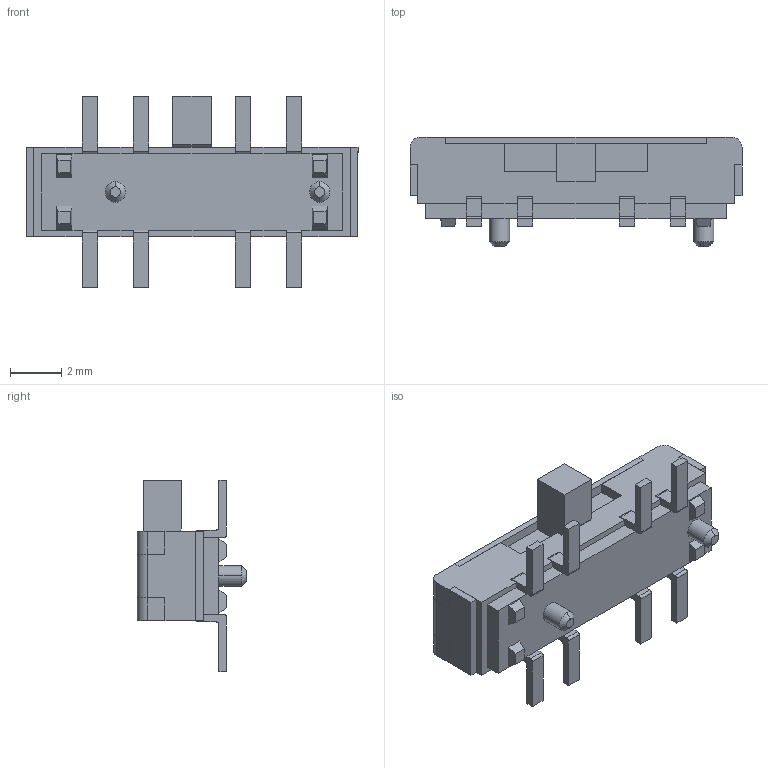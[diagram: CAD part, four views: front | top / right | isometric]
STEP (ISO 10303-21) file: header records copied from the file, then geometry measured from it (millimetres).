
FILE_DESCRIPTION (( 'STEP AP214' ), '1' );
FILE_NAME ('SSSS224001.STEP', '2011-04-07T10:26:07', ( '' ), ( '' ), 'SwSTEP 2.0', 'SolidWorks 2007', '' );
FILE_SCHEMA (( 'AUTOMOTIVE_DESIGN' ));
Length unit declared in the file: millimetre
Products named in the file (1): SSSS224001
Bounding box: 13 x 4.3 x 7.5 mm (x, y, z)
Volume: 147 mm3; surface area: 359.7 mm2
Topology: 2 solids, 2 shells, 210 faces, 590 edges, 388 vertices
Faces by surface type: plane 166, cylinder 40, cone 4
Entity records: 7885 total; most frequent: CARTESIAN_POINT 1189, ORIENTED_EDGE 1180, DIRECTION 1100, EDGE_CURVE 590, LINE 502, VECTOR 502, VERTEX_POINT 388, AXIS2_PLACEMENT_3D 299
